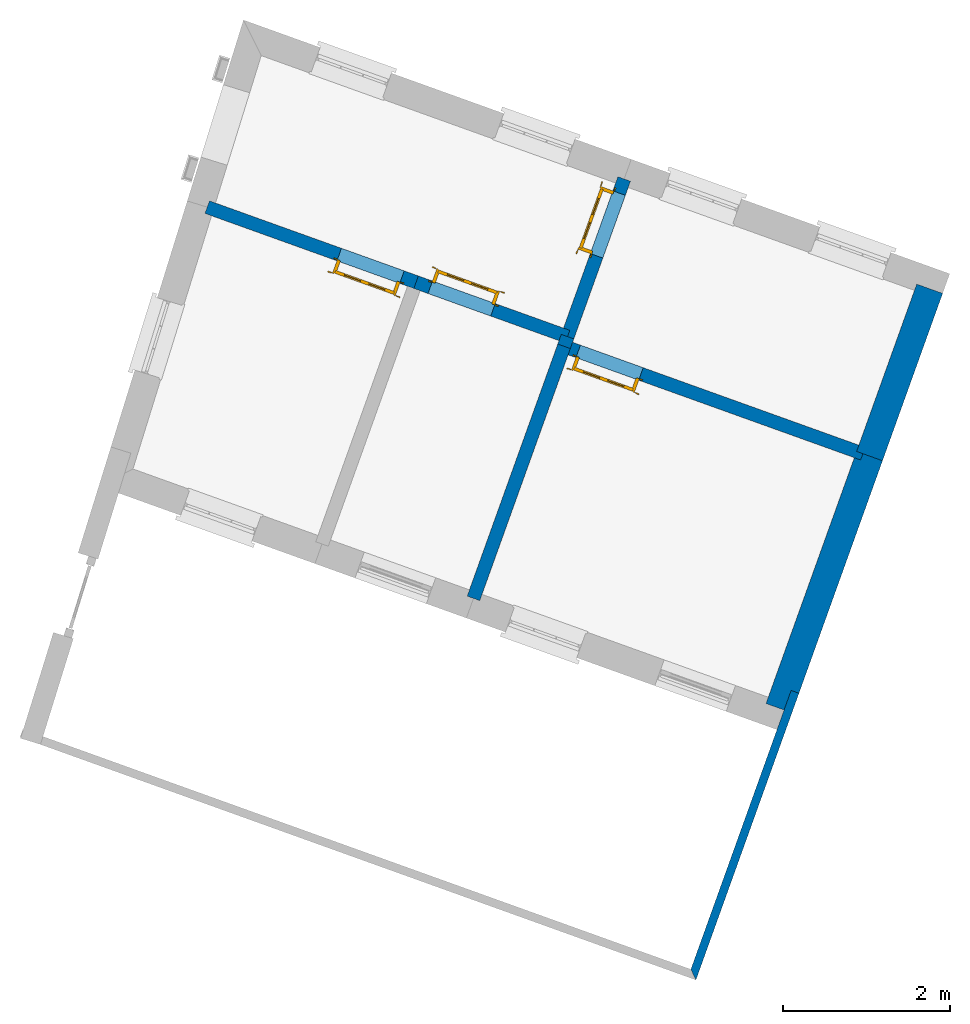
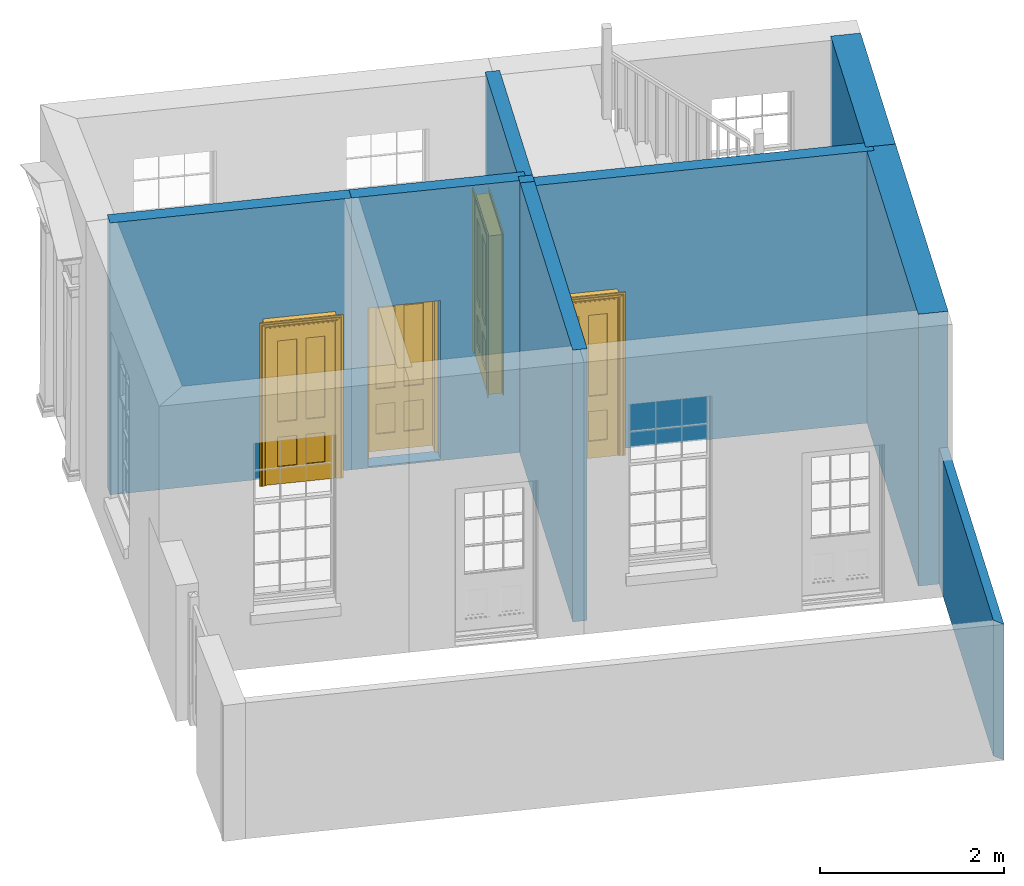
# One storey, part 3 of 6: 9 walls, 4 doors, 4 openings.
"""IFC4 building model written with IfcOpenShell, lengths in metres."""

from ifc_helpers import new_model, si_unit, frame, origin, origin_with_axes, place, context, subcontext, project, spatial, polyline, outline, extrude, faceted_brep, source, transform, mapped, material, layer, layer_set, layer_usage, type_object, type_shapes, element, fill, save


model = new_model("IFC4")

# Units and contexts
model_context = context("Model", 3, world=origin_with_axes())
body_context = subcontext(model_context, "Body", "Model", "MODEL_VIEW")
ifc_project = project(units=[si_unit("PLANEANGLEUNIT", "RADIAN"), si_unit("MASSUNIT", "GRAM", prefix="KILO"), si_unit("FORCEUNIT", "NEWTON", prefix="KILO"), si_unit("LENGTHUNIT", "METRE"), si_unit("AREAUNIT", "SQUARE_METRE"), si_unit("VOLUMEUNIT", "CUBIC_METRE")], contexts=[model_context, model_context])

# Sites, building, storey
site_1_placement = place(None, origin_with_axes())
site_1 = spatial("IfcSite", under=ifc_project, at=site_1_placement, Name="Tamar")
site_2_placement = place(site_1_placement, origin_with_axes())
site_2 = spatial("IfcSite", under=site_1, at=site_2_placement, Name="Site plot-21", CompositionType="ELEMENT")
building_placement = place(None, origin_with_axes())
building = spatial("IfcBuilding", under=site_2, at=building_placement, Name="Building plot-21", CompositionType="ELEMENT")
storey_placement = place(None, frame((0.0, 0.0, 26.0), z_axis=(0.0, 0.0, 1.0), x_axis=(1.0, 0.0, 0.0)))
storey = spatial("IfcBuildingStorey", under=building, at=storey_placement, Name="plot-21 0", CompositionType="ELEMENT", Elevation=26.0)

# Walls
ifc_material_1 = material(Name="Masonry")
ifc_layer_1 = layer(ifc_material_1, 0.33, ventilated=False)
ifc_layer_set_1 = layer_set([ifc_layer_1], Name="party_0.08_0.25")
ifc_layer_usage_1 = layer_usage(ifc_layer_set_1, "AXIS2", "POSITIVE", -0.25)
wall_type_1 = type_object("IfcWallType", Name="party_0.08_0.25", PredefinedType="SOLIDWALL", material=ifc_layer_set_1)
wall_1_placement = place(storey_placement, frame((260.597996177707, 279.889417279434, 0.0), z_axis=(0.0, 0.0, 1.0), x_axis=(0.33816408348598, 0.941087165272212, 0.0)))
element("IfcWall", 1, at=wall_1_placement, inside=storey, type_object=wall_type_1, material=ifc_layer_usage_1, Name="party", context=body_context, shape_type="SweptSolid", body=[
    extrude(outline(polyline([(9.84591547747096e-15, 0.0799999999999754), (6.67664623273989e-15, -0.249999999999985), (3.2128398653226, -0.249999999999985), (3.2128398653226, 0.0799999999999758), (9.84591547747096e-15, 0.0799999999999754)])), origin_with_axes(), (0.0, 0.0, 1.0), 3.6),
])
wall_2_placement = place(storey_placement, frame((261.684463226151, 282.912979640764, 0.0), z_axis=(0.0, 0.0, 1.0), x_axis=(0.338164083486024, 0.941087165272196, 0.0)))
element("IfcWall", 2, at=wall_2_placement, inside=storey, type_object=wall_type_1, material=ifc_layer_usage_1, Name="party", context=body_context, shape_type="SweptSolid", body=[
    extrude(outline(polyline([(6.18662038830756e-15, 0.0799999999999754), (1.81119433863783e-14, -0.249999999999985), (2.1327286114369, -0.249999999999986), (2.13272861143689, 0.0799999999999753), (6.18662038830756e-15, 0.0799999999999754)])), origin_with_axes(), (0.0, 0.0, 1.0), 3.6),
])

# Wall, opening, door
ifc_material_2 = material(Name="Masonry")
ifc_layer_2 = layer(ifc_material_2, 0.16, ventilated=False)
ifc_layer_set_2 = layer_set([ifc_layer_2], Name="interior_0.08_0.08")
ifc_layer_usage_2 = layer_usage(ifc_layer_set_2, "AXIS2", "POSITIVE", -0.08)
wall_type_2 = type_object("IfcWallType", Name="interior_0.08_0.08", PredefinedType="SOLIDWALL", material=ifc_layer_set_2)
wall_3_placement = place(storey_placement, frame((261.684463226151, 282.912979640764, 0.0), z_axis=(0.0, 0.0, 1.0), x_axis=(-0.941087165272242, 0.338164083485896, 0.0)))
wall_3 = element("IfcWall", 3, at=wall_3_placement, inside=storey, type_object=wall_type_2, material=ifc_layer_usage_2, Name="interior", context=body_context, shape_type="SweptSolid", body=[
    extrude(outline(polyline([(-2.23331103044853e-15, 0.0800000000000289), (2.24310820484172e-15, -0.0800000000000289), (3.80822589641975, -0.080000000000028), (3.80822589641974, 0.0800000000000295), (-2.23331103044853e-15, 0.0800000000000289)])), origin_with_axes(), (0.0, 0.0, 1.0), 3.6),
])
opening_1_placement = place(wall_3_placement, frame((2.82822589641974, 0.0, 0.0199999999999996)))
opening_1 = element("IfcOpeningElement", 4, at=opening_1_placement, cuts=wall_3, Name="My Opening", ObjectType="Opening", context=body_context, shape_type="SweptSolid", body=[
    extrude(outline(polyline([(0.0, -0.0999999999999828), (0.800000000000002, -0.100000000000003), (0.799999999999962, 1.09999999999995), (-4.08562073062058e-14, 1.09999999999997), (0.0, -0.0999999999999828)])), origin_with_axes(), (0.0, 0.0, 1.0), 2.1),
])
door_type = type_object("IfcDoorType", Name="door_inside", OperationType="SINGLE_SWING_LEFT", PredefinedType="NOTDEFINED")
shared_shape = source(origin(), body_context, "Body", "Brep", [
    faceted_brep([(0.773, 0.33, 1.895), (0.66, 0.33, 1.895), (0.66, 0.33, 2.073), (0.773, 0.33, 2.073), (0.773, 0.33, 0.82), (0.66, 0.33, 0.82), (0.45, 0.33, 1.895), (0.45, 0.33, 2.073), (0.773, 0.33, 0.62), (0.66, 0.33, 0.62), (0.66, 0.315, 0.82), (0.66, 0.315, 1.895), (0.45, 0.315, 1.895), (0.35, 0.33, 1.895), (0.35, 0.33, 2.073), (0.773, 0.33, 0.225), (0.66, 0.33, 0.225), (0.45, 0.33, 0.62), (0.45, 0.33, 0.82), (0.45, 0.315, 0.82), (0.35, 0.33, 0.82), (0.14, 0.33, 2.073), (0.14, 0.33, 1.895), (0.773, 0.33, 0.0), (0.66, 0.33, 0.0), (0.66, 0.315, 0.225), (0.66, 0.315, 0.62), (0.45, 0.315, 0.62), (0.35, 0.33, 0.62), (0.35, 0.315, 0.82), (0.35, 0.315, 1.895), (0.14, 0.315, 1.895), (0.027, 0.33, 2.073), (0.027, 0.33, 1.895), (0.773, 0.292, 0.0), (0.66, 0.292, 0.0), (0.45, 0.33, 0.0), (0.45, 0.33, 0.225), (0.45, 0.315, 0.225), (0.35, 0.33, 0.225), (0.14, 0.33, 0.82), (0.14, 0.33, 0.62), (0.14, 0.315, 0.82), (0.027, 0.33, 0.82), (0.773, 0.292, 0.225), (0.66, 0.292, 0.225), (0.45, 0.292, 0.0), (0.35, 0.33, 0.0), (0.35, 0.315, 0.225), (0.35, 0.315, 0.62), (0.14, 0.315, 0.62), (0.027, 0.33, 0.62), (0.773, 0.292, 0.62), (0.66, 0.292, 0.62), (0.45, 0.292, 0.225), (0.35, 0.292, 0.0), (0.14, 0.33, 0.225), (0.14, 0.33, 0.0), (0.14, 0.315, 0.225), (0.027, 0.33, 0.225), (0.773, 0.292, 0.82), (0.66, 0.292, 0.82), (0.66, 0.307, 0.62), (0.66, 0.307, 0.225), (0.45, 0.307, 0.225), (0.35, 0.292, 0.225), (0.14, 0.292, 0.0), (0.027, 0.33, 0.0), (0.773, 0.292, 1.895), (0.66, 0.292, 1.895), (0.45, 0.292, 0.62), (0.45, 0.292, 0.82), (0.45, 0.307, 0.62), (0.35, 0.292, 0.62), (0.14, 0.292, 0.225), (0.027, 0.292, 0.0), (0.773, 0.292, 2.073), (0.66, 0.292, 2.073), (0.66, 0.307, 1.895), (0.66, 0.307, 0.82), (0.45, 0.307, 0.82), (0.35, 0.292, 0.82), (0.35, 0.307, 0.62), (0.35, 0.307, 0.225), (0.14, 0.307, 0.225), (0.027, 0.292, 0.225), (0.45, 0.292, 1.895), (0.45, 0.292, 2.073), (0.45, 0.307, 1.895), (0.35, 0.292, 1.895), (0.14, 0.292, 0.82), (0.14, 0.292, 0.62), (0.14, 0.307, 0.62), (0.027, 0.292, 0.62), (0.35, 0.292, 2.073), (0.35, 0.307, 1.895), (0.35, 0.307, 0.82), (0.14, 0.307, 0.82), (0.027, 0.292, 0.82), (0.14, 0.292, 2.073), (0.14, 0.292, 1.895), (0.14, 0.307, 1.895), (0.027, 0.292, 1.895), (0.027, 0.292, 2.073), (0.02, 0.335, 0.0), (0.005, 0.34, 0.0), (0.005, 0.34, 2.095), (0.02, 0.335, 2.08), (0.02, 0.33, 0.0), (0.0, 0.335, 0.0), (0.0, 0.335, 2.1), (0.795, 0.34, 2.095), (0.78, 0.335, 2.08), (0.02, 0.33, 2.08), (0.0, 0.33, 0.0), (-0.032, 0.345, 0.0), (-0.032, 0.345, 2.132), (0.8, 0.335, 2.1), (0.795, 0.34, 0.0), (0.78, 0.335, 0.0), (0.78, 0.33, 2.08), (0.04, 0.29, 0.0), (0.025, 0.29, 0.0), (0.025, 0.29, 2.075), (0.04, 0.29, 2.06), (-0.04, 0.34, 0.0), (-0.04, 0.34, 2.14), (0.832, 0.345, 2.132), (0.8, 0.335, 0.0), (0.78, 0.33, 0.0), (0.8, 0.33, 0.0), (0.86, 0.33, 0.0), (0.86, 0.33, 2.16), (0.8, 0.33, 2.1), (-0.06, 0.33, 2.16), (0.0, 0.33, 2.1), (-0.06, 0.33, 0.0), (-0.04, 0.345, 0.0), (-0.04, 0.345, 2.14), (0.84, 0.34, 2.14), (0.832, 0.345, 0.0), (0.84, 0.34, 0.0), (0.86, 0.345, 0.0), (0.86, 0.345, 2.16), (-0.06, 0.345, 2.16), (-0.06, 0.345, 0.0), (0.84, 0.345, 0.0), (0.84, 0.345, 2.14), (-0.025, 0.155, 0.0), (-0.025, 0.16, 0.0), (-0.025, 0.16, 2.125), (-0.025, 0.155, 2.125), (-0.017, 0.155, 0.0), (-0.017, 0.155, 2.117), (0.825, 0.16, 2.125), (0.825, 0.155, 2.125), (0.825, 0.155, 0.0), (0.845, 0.155, 0.0), (-0.045, 0.155, 2.145), (-0.045, 0.155, 0.0), (0.845, 0.155, 2.145), (0.015, 0.165, 0.0), (0.015, 0.165, 2.085), (0.817, 0.155, 2.117), (0.825, 0.16, 0.0), (0.845, 0.17, 0.0), (0.845, 0.17, 2.145), (-0.045, 0.17, 2.145), (-0.045, 0.17, 0.0), (0.02, 0.16, 0.0), (0.02, 0.16, 2.08), (0.785, 0.165, 2.085), (0.817, 0.155, 0.0), (0.8, 0.17, 0.0), (0.8, 0.17, 2.1), (0.0, 0.17, 2.1), (0.0, 0.17, 0.0), (0.035, 0.165, 0.0), (0.035, 0.165, 2.065), (0.78, 0.16, 2.08), (0.785, 0.165, 0.0), (0.775, 0.29, 2.075), (0.76, 0.29, 2.06), (0.035, 0.17, 2.065), (0.035, 0.17, 0.0), (0.765, 0.165, 2.065), (0.78, 0.16, 0.0), (0.765, 0.17, 0.0), (0.765, 0.17, 2.065), (0.765, 0.165, 0.0), (0.04, 0.17, 2.06), (0.04, 0.17, 0.0), (0.76, 0.17, 2.06), (0.76, 0.17, 0.0), (0.76, 0.29, 0.0), (0.775, 0.29, 0.0), (0.025, 0.33, 0.0), (0.025, 0.33, 2.075), (0.775, 0.33, 0.0), (0.775, 0.33, 2.075)], [[[0, 1, 2, 3]], [[1, 0, 4, 5]], [[1, 6, 7, 2]], [[8, 9, 5, 4]], [[1, 5, 10, 11]], [[6, 1, 11, 12]], [[6, 13, 14, 7]], [[15, 16, 9, 8]], [[9, 17, 18, 5]], [[5, 18, 19, 10]], [[10, 19, 12, 11]], [[18, 6, 12, 19]], [[18, 20, 13, 6]], [[21, 14, 13, 22]], [[23, 24, 16, 15]], [[9, 16, 25, 26]], [[17, 9, 26, 27]], [[17, 28, 20, 18]], [[13, 20, 29, 30]], [[22, 13, 30, 31]], [[32, 21, 22, 33]], [[34, 35, 24, 23]], [[24, 36, 37, 16]], [[16, 37, 38, 25]], [[25, 38, 27, 26]], [[37, 17, 27, 38]], [[37, 39, 28, 17]], [[40, 20, 28, 41]], [[20, 40, 42, 29]], [[31, 30, 29, 42]], [[40, 22, 31, 42]], [[33, 22, 40, 43]], [[35, 34, 44, 45]], [[35, 46, 36, 24]], [[36, 47, 39, 37]], [[28, 39, 48, 49]], [[41, 28, 49, 50]], [[43, 40, 41, 51]], [[45, 44, 52, 53]], [[46, 35, 45, 54]], [[46, 55, 47, 36]], [[56, 39, 47, 57]], [[39, 56, 58, 48]], [[50, 49, 48, 58]], [[56, 41, 50, 58]], [[51, 41, 56, 59]], [[53, 52, 60, 61]], [[45, 53, 62, 63]], [[54, 45, 63, 64]], [[55, 46, 54, 65]], [[55, 66, 57, 47]], [[59, 56, 57, 67]], [[61, 60, 68, 69]], [[70, 53, 61, 71]], [[53, 70, 72, 62]], [[72, 64, 63, 62]], [[70, 54, 64, 72]], [[65, 54, 70, 73]], [[65, 74, 66, 55]], [[67, 57, 66, 75]], [[69, 68, 76, 77]], [[61, 69, 78, 79]], [[71, 61, 79, 80]], [[73, 70, 71, 81]], [[65, 73, 82, 83]], [[74, 65, 83, 84]], [[74, 85, 75, 66]], [[86, 69, 77, 87]], [[69, 86, 88, 78]], [[88, 80, 79, 78]], [[86, 71, 80, 88]], [[81, 71, 86, 89]], [[73, 81, 90, 91]], [[73, 91, 92, 82]], [[83, 82, 92, 84]], [[91, 74, 84, 92]], [[91, 93, 85, 74]], [[89, 86, 87, 94]], [[81, 89, 95, 96]], [[90, 81, 96, 97]], [[90, 98, 93, 91]], [[94, 99, 100, 89]], [[89, 100, 101, 95]], [[101, 97, 96, 95]], [[100, 90, 97, 101]], [[100, 102, 98, 90]], [[99, 103, 102, 100]], [[32, 103, 99, 21]], [[102, 103, 32, 33]], [[98, 102, 33, 43]], [[21, 99, 94, 14]], [[94, 87, 7, 14]], [[7, 87, 77, 2]], [[76, 3, 2, 77]], [[43, 51, 93, 98]], [[51, 59, 85, 93]], [[67, 75, 85, 59]], [[34, 23, 15, 44]], [[44, 15, 8, 52]], [[52, 8, 4, 60]], [[0, 68, 60, 4]], [[0, 3, 76, 68]], [[104, 105, 106, 107]], [[104, 108, 109, 105]], [[105, 109, 110, 106]], [[107, 106, 111, 112]], [[107, 113, 108, 104]], [[114, 109, 108]], [[109, 115, 116, 110]], [[106, 110, 117, 111]], [[112, 111, 118, 119]], [[113, 107, 112, 120]], [[121, 122, 123, 124]], [[115, 109, 114, 125]], [[115, 125, 126, 116]], [[110, 116, 127, 117]], [[111, 117, 128, 118]], [[118, 128, 129, 119]], [[120, 112, 119, 129]], [[130, 129, 128]], [[130, 131, 132, 133]], [[133, 132, 134, 135]], [[135, 134, 136, 114]], [[136, 125, 114]], [[125, 137, 138, 126]], [[116, 126, 139, 127]], [[117, 127, 140, 128]], [[141, 130, 128, 140]], [[131, 130, 141]], [[131, 142, 143, 132]], [[132, 143, 144, 134]], [[134, 144, 145, 136]], [[137, 125, 136, 145]], [[143, 142, 146]], [[143, 146, 147]], [[137, 145, 144]], [[143, 147, 138]], [[138, 137, 144]], [[143, 138, 144]], [[126, 138, 147, 139]], [[127, 139, 141, 140]], [[142, 131, 141, 146]], [[139, 147, 146, 141]], [[148, 149, 150, 151]], [[149, 152, 153, 150]], [[151, 150, 154, 155]], [[155, 156, 157]], [[158, 159, 148]], [[158, 148, 151]], [[155, 157, 160]], [[158, 151, 155]], [[155, 160, 158]], [[152, 161, 162, 153]], [[150, 153, 163, 154]], [[155, 154, 164, 156]], [[156, 164, 165, 157]], [[157, 165, 166, 160]], [[160, 166, 167, 158]], [[158, 167, 168, 159]], [[161, 169, 170, 162]], [[153, 162, 171, 163]], [[154, 163, 172, 164]], [[165, 164, 173]], [[165, 173, 174, 166]], [[166, 174, 175, 167]], [[167, 175, 176, 168]], [[169, 177, 178, 170]], [[162, 170, 179, 171]], [[163, 171, 180, 172]], [[172, 180, 173, 164]], [[124, 123, 181, 182]], [[183, 178, 177, 184]], [[170, 178, 185, 179]], [[171, 179, 186, 180]], [[187, 173, 180]], [[185, 188, 187, 189]], [[188, 185, 178, 183]], [[179, 185, 189, 186]], [[189, 187, 180, 186]], [[190, 183, 184, 191]], [[192, 188, 183, 190]], [[191, 184, 122, 121]], [[124, 190, 191, 121]], [[193, 187, 188, 192]], [[182, 192, 190, 124]], [[184, 176, 122]], [[194, 195, 187, 193]], [[192, 182, 194, 193]], [[161, 176, 184]], [[114, 108, 122, 176]], [[173, 187, 195]], [[152, 149, 176, 161]], [[169, 161, 184, 177]], [[196, 122, 108]], [[176, 175, 135, 114]], [[173, 195, 129, 130]], [[176, 149, 168]], [[123, 122, 196, 197]], [[196, 108, 113, 197]], [[175, 174, 133, 135]], [[198, 129, 195]], [[133, 174, 173, 130]], [[159, 168, 149, 148]], [[181, 123, 197, 199]], [[197, 113, 120, 199]], [[199, 120, 129, 198]], [[195, 181, 199, 198]], [[195, 194, 182, 181]]]),
])
type_shapes(door_type, [shared_shape])
door_1_placement = place(storey_placement, frame((259.056672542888, 283.963492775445, 0.0199999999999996), z_axis=(0.0, 0.0, 1.0), x_axis=(-0.752869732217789, 0.270531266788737, 0.0)))
door_1 = element("IfcDoor", 5, at=door_1_placement, inside=storey, type_object=door_type, Name="bedroom inside door", OverallHeight=2.1, OverallWidth=0.8, context=body_context, shape_type="MappedRepresentation", body=[
    mapped(shared_shape, transform((0.0, 0.0, 0.0), scale=1.0)),
])
fill(opening_1, door_1)

# Wall
wall_4_placement = place(storey_placement, frame((258.100590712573, 284.200784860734, 0.0), z_axis=(0.0, 0.0, 1.0), x_axis=(-0.338164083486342, -0.941087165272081, 0.0)))
element("IfcWall", 6, at=wall_4_placement, inside=storey, type_object=wall_type_2, material=ifc_layer_usage_2, Name="interior", context=body_context, shape_type="SweptSolid", body=[
    extrude(outline(polyline([(-2.09046521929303e-14, 0.0799999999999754), (2.09303821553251e-14, -0.0799999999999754), (3.21283986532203, -0.0799999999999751), (3.21283986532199, 0.0799999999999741), (-2.09046521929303e-14, 0.0799999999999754)])), origin_with_axes(), (0.0, 0.0, 1.0), 3.6),
])

# Wall, opening, door
wall_5_placement = place(storey_placement, frame((256.326073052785, 284.969724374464, 0.0), z_axis=(0.0, 0.0, 1.0), x_axis=(-0.941087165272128, 0.338164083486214, 0.0)))
wall_5 = element("IfcWall", 7, at=wall_5_placement, inside=storey, type_object=wall_type_2, material=ifc_layer_usage_2, Name="interior", context=body_context, shape_type="SweptSolid", body=[
    extrude(outline(polyline([(-9.97822685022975e-15, 0.0799999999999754), (1.00235511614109e-14, -0.0799999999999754), (2.66185475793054, -0.0799999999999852), (2.66185475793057, 0.0799999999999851), (-9.97822685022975e-15, 0.0799999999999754)])), origin_with_axes(), (0.0, 0.0, 1.0), 3.6),
])
opening_2_placement = place(wall_5_placement, frame((0.179999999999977, 0.0, 0.0199999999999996)))
opening_2 = element("IfcOpeningElement", 8, at=opening_2_placement, cuts=wall_5, Name="My Opening", ObjectType="Opening", context=body_context, shape_type="SweptSolid", body=[
    extrude(outline(polyline([(0.0, -0.1), (0.800000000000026, -0.0999999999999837), (0.800000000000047, 1.10000000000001), (2.07056594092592e-14, 1.09999999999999), (0.0, -0.1)])), origin_with_axes(), (0.0, 0.0, 1.0), 2.1),
])
door_2_placement = place(storey_placement, frame((256.190493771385, 285.124702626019, 0.0199999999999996), z_axis=(0.0, 0.0, 1.0), x_axis=(-0.752869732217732, 0.270531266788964, 0.0)))
door_2 = element("IfcDoor", 9, at=door_2_placement, inside=storey, type_object=door_type, Name="toilet inside door", OverallHeight=2.1, OverallWidth=0.8, context=body_context, shape_type="MappedRepresentation", body=[
    mapped(shared_shape, transform((0.0, 0.0, 0.0), scale=1.0)),
])
fill(opening_2, door_2)

# Wall
wall_6_placement = place(storey_placement, frame((258.100590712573, 284.200784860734, 0.0), z_axis=(0.0, 0.0, 1.0), x_axis=(0.338164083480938, 0.941087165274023, 0.0)))
element("IfcWall", 10, at=wall_6_placement, inside=storey, type_object=wall_type_2, material=ifc_layer_usage_2, Name="interior", context=body_context, shape_type="SweptSolid", body=[
    extrude(outline(polyline([(6.34649250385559e-15, 0.0800000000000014), (-6.31893176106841e-15, -0.0800000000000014), (0.123560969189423, -0.0800000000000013), (0.123560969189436, 0.0800000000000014), (6.34649250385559e-15, 0.0800000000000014)])), origin_with_axes(), (0.0, 0.0, 1.0), 3.6),
])

# Wall, opening, door
wall_7_placement = place(storey_placement, frame((256.326073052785, 284.969724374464, 0.0), z_axis=(0.0, 0.0, 1.0), x_axis=(0.941087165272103, -0.338164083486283, 0.0)))
wall_7 = element("IfcWall", 11, at=wall_7_placement, inside=storey, type_object=wall_type_2, material=ifc_layer_usage_2, Name="interior", context=body_context, shape_type="SweptSolid", body=[
    extrude(outline(polyline([(-1.59112586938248e-14, 0.0799999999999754), (1.59014615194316e-14, -0.0799999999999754), (1.93000352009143, -0.0799999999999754), (1.9300035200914, 0.0799999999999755), (-1.59112586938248e-14, 0.0799999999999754)])), origin_with_axes(), (0.0, 0.0, 1.0), 3.6),
])
opening_3_placement = place(wall_7_placement, frame((0.179999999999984, 0.0, 0.0199999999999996)))
opening_3 = element("IfcOpeningElement", 12, at=opening_3_placement, cuts=wall_7, Name="My Opening", ObjectType="Opening", context=body_context, shape_type="SweptSolid", body=[
    extrude(outline(polyline([(0.0, -0.099999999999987), (0.800000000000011, -0.100000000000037), (0.799999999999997, 1.09999999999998), (-1.39332989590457e-14, 1.10000000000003), (0.0, -0.099999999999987)])), origin_with_axes(), (0.0, 0.0, 1.0), 2.1),
])
door_3_placement = place(storey_placement, frame((256.461652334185, 284.814746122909, 0.0199999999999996), z_axis=(0.0, 0.0, 1.0), x_axis=(0.752869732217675, -0.270531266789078, 0.0)))
door_3 = element("IfcDoor", 13, at=door_3_placement, inside=storey, type_object=door_type, Name="bedroom inside door", OverallHeight=2.1, OverallWidth=0.8, context=body_context, shape_type="MappedRepresentation", body=[
    mapped(shared_shape, transform((0.0, 0.0, 0.0), scale=1.0)),
])
fill(opening_3, door_3)

wall_8_placement = place(storey_placement, frame((258.142374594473, 284.317066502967, 0.0), z_axis=(0.0, 0.0, 1.0), x_axis=(0.338164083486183, 0.941087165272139, 0.0)))
wall_8 = element("IfcWall", 14, at=wall_8_placement, inside=storey, type_object=wall_type_2, material=ifc_layer_usage_2, Name="interior", context=body_context, shape_type="SweptSolid", body=[
    extrude(outline(polyline([(-7.40250943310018e-15, 0.0799999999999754), (7.41230660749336e-15, -0.0799999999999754), (2.00916764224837, -0.079999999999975), (2.00916764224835, 0.0799999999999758), (-7.40250943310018e-15, 0.0799999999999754)])), origin_with_axes(), (0.0, 0.0, 1.0), 3.6),
])
opening_4_placement = place(wall_8_placement, frame((1.02916764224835, 0.0, 0.0199999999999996)))
opening_4 = element("IfcOpeningElement", 15, at=opening_4_placement, cuts=wall_8, Name="My Opening", ObjectType="Opening", context=body_context, shape_type="SweptSolid", body=[
    extrude(outline(polyline([(0.0, -0.0999999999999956), (0.800000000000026, -0.100000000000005), (0.800000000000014, 1.10000000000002), (-1.26565424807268e-14, 1.10000000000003), (0.0, -0.0999999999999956)])), origin_with_axes(), (0.0, 0.0, 1.0), 2.1),
])
door_4_placement = place(storey_placement, frame((258.584510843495, 285.251786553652, 0.0199999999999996), z_axis=(0.0, 0.0, 1.0), x_axis=(0.270531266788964, 0.752869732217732, 0.0)))
door_4 = element("IfcDoor", 16, at=door_4_placement, inside=storey, type_object=door_type, Name="circulation inside door", OverallHeight=2.1, OverallWidth=0.8, context=body_context, shape_type="MappedRepresentation", body=[
    mapped(shared_shape, transform((0.0, 0.0, 0.0), scale=1.0)),
])
fill(opening_4, door_4)

# Wall
ifc_material_3 = material(Name="Masonry")
ifc_layer_3 = layer(ifc_material_3, 0.1, ventilated=False)
ifc_layer_set_3 = layer_set([ifc_layer_3], Name="fence_-0.15_0.25")
ifc_layer_usage_3 = layer_usage(ifc_layer_set_3, "AXIS2", "POSITIVE", -0.25)
wall_type_3 = type_object("IfcWallType", Name="fence_-0.15_0.25", PredefinedType="SOLIDWALL", material=ifc_layer_set_3)
wall_9_placement = place(storey_placement, frame((259.531280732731, 276.920822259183, 0.0), z_axis=(0.0, 0.0, 1.0), x_axis=(0.338164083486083, 0.941087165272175, 0.0)))
element("IfcWall", 17, at=wall_9_placement, inside=storey, type_object=wall_type_3, material=ifc_layer_usage_3, Name="fence", context=body_context, shape_type="SweptSolid", body=[
    extrude(outline(polyline([(-0.15, -0.149999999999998), (-0.250000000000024, -0.249999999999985), (3.40443152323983, -0.250000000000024), (3.40443152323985, -0.150000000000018), (-0.15, -0.149999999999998)])), origin_with_axes(), (0.0, 0.0, 1.0), 1.8),
])

save(model, "model.ifc")
